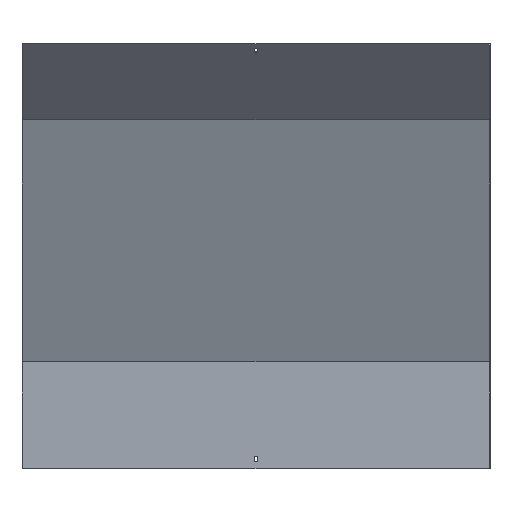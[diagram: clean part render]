
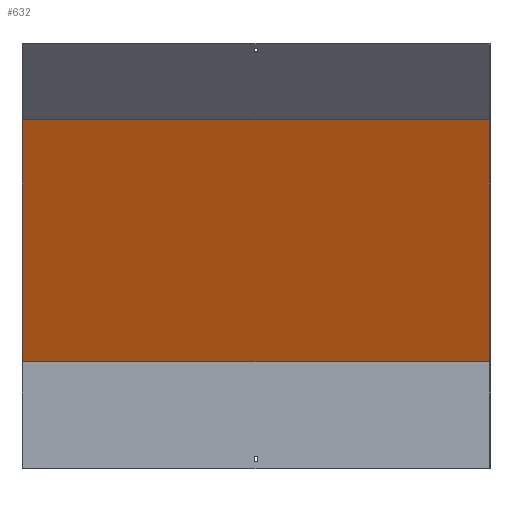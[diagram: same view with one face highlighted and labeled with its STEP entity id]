
A CAD part, front view. The second image highlights one B-rep face of the part: STEP entity #632.
In plain terms, the highlighted planar face has unit normal (0, -0.924, -0.383).
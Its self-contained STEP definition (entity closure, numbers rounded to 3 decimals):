
#13 = CARTESIAN_POINT ( 'NONE',  ( -400., 18.5, 183.68 ) ) ;
#37 = VECTOR ( 'NONE', #571, 1000. ) ;
#43 = EDGE_CURVE ( 'NONE', #59, #799, #439, .T. ) ;
#50 = EDGE_CURVE ( 'NONE', #269, #242, #241, .T. ) ;
#52 = VECTOR ( 'NONE', #86, 1000. ) ;
#59 = VERTEX_POINT ( 'NONE', #513 ) ;
#86 = DIRECTION ( 'NONE',  ( 0., -0.383, 0.924 ) ) ;
#147 = CARTESIAN_POINT ( 'NONE',  ( -400., 80.731, 33.44 ) ) ;
#177 = CARTESIAN_POINT ( 'NONE',  ( 401.5, 18.5, 183.68 ) ) ;
#221 = DIRECTION ( 'NONE',  ( 0., -0.924, -0.383 ) ) ;
#222 = LINE ( 'NONE', #826, #52 ) ;
#241 = LINE ( 'NONE', #177, #282 ) ;
#242 = VERTEX_POINT ( 'NONE', #13 ) ;
#246 = ORIENTED_EDGE ( 'NONE', *, *, #43, .T. ) ;
#269 = VERTEX_POINT ( 'NONE', #626 ) ;
#270 = ORIENTED_EDGE ( 'NONE', *, *, #50, .F. ) ;
#282 = VECTOR ( 'NONE', #584, 1000. ) ;
#292 = EDGE_CURVE ( 'NONE', #269, #59, #222, .T. ) ;
#360 = ORIENTED_EDGE ( 'NONE', *, *, #615, .F. ) ;
#377 = CARTESIAN_POINT ( 'NONE',  ( -400., -153.463, 598.834 ) ) ;
#412 = LINE ( 'NONE', #147, #850 ) ;
#439 = LINE ( 'NONE', #709, #37 ) ;
#510 = EDGE_LOOP ( 'NONE', ( #360, #270, #842, #246 ) ) ;
#513 = CARTESIAN_POINT ( 'NONE',  ( 400., -153.463, 598.834 ) ) ;
#546 = PLANE ( 'NONE',  #567 ) ;
#567 = AXIS2_PLACEMENT_3D ( 'NONE', #808, #221, #813 ) ;
#571 = DIRECTION ( 'NONE',  ( -1., 0., 0. ) ) ;
#584 = DIRECTION ( 'NONE',  ( -1., 0., 0. ) ) ;
#615 = EDGE_CURVE ( 'NONE', #242, #799, #412, .T. ) ;
#626 = CARTESIAN_POINT ( 'NONE',  ( 400., 18.5, 183.68 ) ) ;
#632 = ADVANCED_FACE ( 'NONE', ( #674 ), #546, .T. ) ;
#674 = FACE_OUTER_BOUND ( 'NONE', #510, .T. ) ;
#679 = DIRECTION ( 'NONE',  ( 0., -0.383, 0.924 ) ) ;
#709 = CARTESIAN_POINT ( 'NONE',  ( 401.5, -153.463, 598.834 ) ) ;
#799 = VERTEX_POINT ( 'NONE', #377 ) ;
#808 = CARTESIAN_POINT ( 'NONE',  ( 401.5, 17.092, 187.08 ) ) ;
#813 = DIRECTION ( 'NONE',  ( 0., 0.383, -0.924 ) ) ;
#826 = CARTESIAN_POINT ( 'NONE',  ( 400., 80.731, 33.44 ) ) ;
#842 = ORIENTED_EDGE ( 'NONE', *, *, #292, .T. ) ;
#850 = VECTOR ( 'NONE', #679, 1000. ) ;
